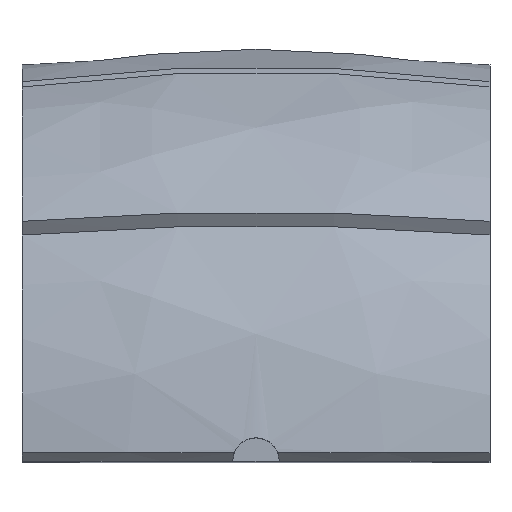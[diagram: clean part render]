
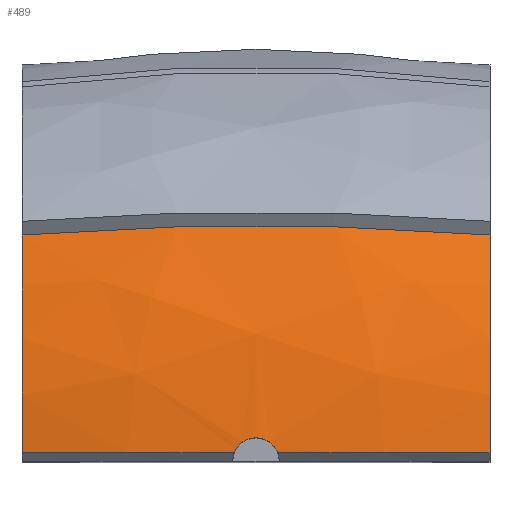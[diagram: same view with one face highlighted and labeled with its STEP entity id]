
A CAD part, top view. The second image highlights one B-rep face of the part: STEP entity #489.
In plain terms, the highlighted free-form (B-spline) face has degree [2, 2] with [3, 3] control points.
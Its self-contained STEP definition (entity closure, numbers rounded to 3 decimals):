
#27=(
BOUNDED_SURFACE()
B_SPLINE_SURFACE(2,2,((#975,#976,#977),(#978,#979,#980),(#981,#982,#983)),
 .UNSPECIFIED.,.F.,.F.,.F.)
B_SPLINE_SURFACE_WITH_KNOTS((3,3),(3,3),(-0.134,0.134),
(0.021,0.608),.UNSPECIFIED.)
GEOMETRIC_REPRESENTATION_ITEM()
RATIONAL_B_SPLINE_SURFACE(((1.,0.957,1.),(0.991,
0.949,0.991),(1.,0.957,1.)))
REPRESENTATION_ITEM('')
SURFACE()
);
#49=B_SPLINE_CURVE_WITH_KNOTS('',3,(#774,#775,#776,#777,#778,#779,#780,
#781,#782,#783,#784,#785,#786,#787,#788,#789,#790,#791,#792,#793),
 .UNSPECIFIED.,.F.,.F.,(4,2,2,2,2,2,2,2,2,4),(-1.112,-1.045,
-0.901,-0.765,-0.664,-0.571,
-0.463,-0.317,-0.159,-0.15),
 .UNSPECIFIED.);
#51=B_SPLINE_CURVE_WITH_KNOTS('',3,(#808,#809,#810,#811),.UNSPECIFIED.,
 .F.,.F.,(4,4),(4.875,8.521),.UNSPECIFIED.);
#63=B_SPLINE_CURVE_WITH_KNOTS('',3,(#954,#955,#956,#957),.UNSPECIFIED.,
 .F.,.F.,(4,4),(9.267,12.913),.UNSPECIFIED.);
#65=B_SPLINE_CURVE_WITH_KNOTS('',3,(#986,#987,#988,#989,#990,#991),
 .UNSPECIFIED.,.F.,.F.,(4,2,4),(4.876,8.895,12.914),
 .UNSPECIFIED.);
#90=FACE_OUTER_BOUND('',#120,.T.);
#120=EDGE_LOOP('',(#407,#408,#409,#410,#411,#412));
#136=CIRCLE('',#521,67.865);
#150=CIRCLE('',#540,67.865);
#204=VERTEX_POINT('',#685);
#205=VERTEX_POINT('',#692);
#218=VERTEX_POINT('',#766);
#219=VERTEX_POINT('',#773);
#229=VERTEX_POINT('',#947);
#231=VERTEX_POINT('',#984);
#256=EDGE_CURVE('',#205,#204,#136,.T.);
#272=EDGE_CURVE('',#219,#218,#49,.T.);
#274=EDGE_CURVE('',#204,#219,#51,.T.);
#294=EDGE_CURVE('',#218,#229,#63,.T.);
#297=EDGE_CURVE('',#229,#231,#150,.T.);
#298=EDGE_CURVE('',#231,#205,#65,.T.);
#407=ORIENTED_EDGE('',*,*,#297,.T.);
#408=ORIENTED_EDGE('',*,*,#298,.T.);
#409=ORIENTED_EDGE('',*,*,#256,.T.);
#410=ORIENTED_EDGE('',*,*,#274,.T.);
#411=ORIENTED_EDGE('',*,*,#272,.T.);
#412=ORIENTED_EDGE('',*,*,#294,.T.);
#489=ADVANCED_FACE('',(#90),#27,.F.);
#521=AXIS2_PLACEMENT_3D('',#693,#582,#583);
#540=AXIS2_PLACEMENT_3D('',#985,#621,#622);
#582=DIRECTION('center_axis',(1.,0.,0.));
#583=DIRECTION('ref_axis',(0.,0.,1.));
#621=DIRECTION('center_axis',(-1.,0.,0.));
#622=DIRECTION('ref_axis',(0.,0.,1.));
#685=CARTESIAN_POINT('',(57.5,1.452,67.85));
#692=CARTESIAN_POINT('',(57.5,38.707,55.745));
#693=CARTESIAN_POINT('Origin',(57.5,0.,0.));
#766=CARTESIAN_POINT('',(101.227,1.452,70.506));
#773=CARTESIAN_POINT('',(93.773,1.452,70.506));
#774=CARTESIAN_POINT('Ctrl Pts',(93.773,1.452,70.506));
#775=CARTESIAN_POINT('Ctrl Pts',(93.853,1.659,70.503));
#776=CARTESIAN_POINT('Ctrl Pts',(93.951,1.859,70.499));
#777=CARTESIAN_POINT('Ctrl Pts',(94.311,2.462,70.485));
#778=CARTESIAN_POINT('Ctrl Pts',(94.629,2.827,70.474));
#779=CARTESIAN_POINT('Ctrl Pts',(95.356,3.407,70.455));
#780=CARTESIAN_POINT('Ctrl Pts',(95.754,3.627,70.446));
#781=CARTESIAN_POINT('Ctrl Pts',(96.498,3.887,70.435));
#782=CARTESIAN_POINT('Ctrl Pts',(96.829,3.958,70.432));
#783=CARTESIAN_POINT('Ctrl Pts',(97.476,4.012,70.43));
#784=CARTESIAN_POINT('Ctrl Pts',(97.789,4.002,70.43));
#785=CARTESIAN_POINT('Ctrl Pts',(98.451,3.902,70.435));
#786=CARTESIAN_POINT('Ctrl Pts',(98.797,3.801,70.439));
#787=CARTESIAN_POINT('Ctrl Pts',(99.568,3.458,70.453));
#788=CARTESIAN_POINT('Ctrl Pts',(99.972,3.182,70.463));
#789=CARTESIAN_POINT('Ctrl Pts',(100.692,2.468,70.485));
#790=CARTESIAN_POINT('Ctrl Pts',(100.989,2.026,70.496));
#791=CARTESIAN_POINT('Ctrl Pts',(101.204,1.51,70.505));
#792=CARTESIAN_POINT('Ctrl Pts',(101.216,1.481,70.505));
#793=CARTESIAN_POINT('Ctrl Pts',(101.227,1.452,70.506));
#808=CARTESIAN_POINT('Ctrl Pts',(57.5,1.452,67.85));
#809=CARTESIAN_POINT('Ctrl Pts',(69.512,1.452,69.466));
#810=CARTESIAN_POINT('Ctrl Pts',(81.626,1.452,70.355));
#811=CARTESIAN_POINT('Ctrl Pts',(93.773,1.452,70.506));
#947=CARTESIAN_POINT('',(137.5,1.452,67.85));
#954=CARTESIAN_POINT('Ctrl Pts',(101.227,1.452,70.506));
#955=CARTESIAN_POINT('Ctrl Pts',(113.374,1.452,70.355));
#956=CARTESIAN_POINT('Ctrl Pts',(125.488,1.452,69.466));
#957=CARTESIAN_POINT('Ctrl Pts',(137.5,1.452,67.85));
#975=CARTESIAN_POINT('Ctrl Pts',(137.5,1.397,67.851));
#976=CARTESIAN_POINT('Ctrl Pts',(137.5,21.909,67.429));
#977=CARTESIAN_POINT('Ctrl Pts',(137.5,38.752,55.714));
#978=CARTESIAN_POINT('Ctrl Pts',(97.5,1.508,73.231));
#979=CARTESIAN_POINT('Ctrl Pts',(97.5,23.646,72.775));
#980=CARTESIAN_POINT('Ctrl Pts',(97.5,41.825,60.131));
#981=CARTESIAN_POINT('Ctrl Pts',(57.5,1.397,67.851));
#982=CARTESIAN_POINT('Ctrl Pts',(57.5,21.909,67.429));
#983=CARTESIAN_POINT('Ctrl Pts',(57.5,38.752,55.714));
#984=CARTESIAN_POINT('',(137.5,38.707,55.745));
#985=CARTESIAN_POINT('Origin',(137.5,0.,0.));
#986=CARTESIAN_POINT('Ctrl Pts',(137.5,38.707,55.745));
#987=CARTESIAN_POINT('Ctrl Pts',(124.261,39.754,57.186));
#988=CARTESIAN_POINT('Ctrl Pts',(110.899,40.281,57.912));
#989=CARTESIAN_POINT('Ctrl Pts',(84.107,40.282,57.913));
#990=CARTESIAN_POINT('Ctrl Pts',(70.742,39.754,57.187));
#991=CARTESIAN_POINT('Ctrl Pts',(57.5,38.707,55.745));
